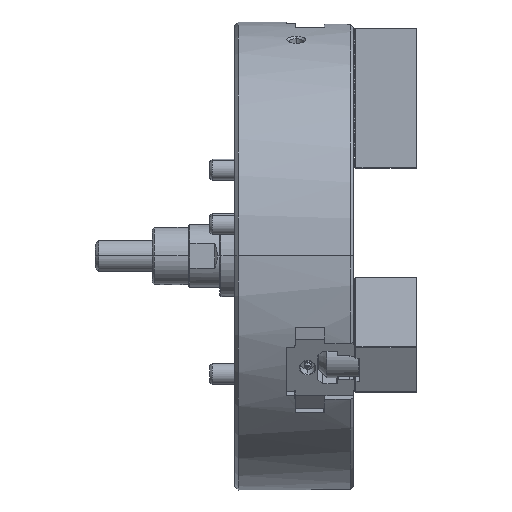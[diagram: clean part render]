
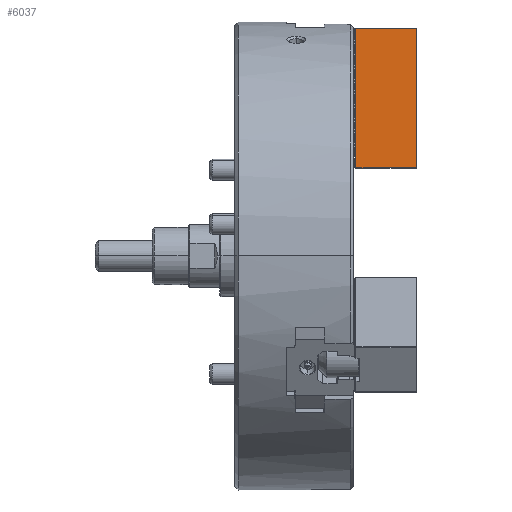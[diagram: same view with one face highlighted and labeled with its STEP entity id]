
A CAD part, top view. The second image highlights one B-rep face of the part: STEP entity #6037.
In plain terms, the highlighted planar face has unit normal (0, 0, 1).
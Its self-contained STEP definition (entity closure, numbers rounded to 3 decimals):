
#1260 = VECTOR ( 'NONE', #74494, 1000. ) ;
#5832 = LINE ( 'NONE', #79320, #175731 ) ;
#6037 = ADVANCED_FACE ( 'NONE', ( #102546 ), #40372, .F. ) ;
#6630 = CARTESIAN_POINT ( 'NONE',  ( 60., 0.6, 25. ) ) ;
#8733 = DIRECTION ( 'NONE',  ( 0., 0., -1. ) ) ;
#10086 = VERTEX_POINT ( 'NONE', #114327 ) ;
#15267 = VECTOR ( 'NONE', #53599, 1000. ) ;
#24796 = CARTESIAN_POINT ( 'NONE',  ( 59.4, 134.4, 25. ) ) ;
#38198 = DIRECTION ( 'NONE',  ( 0., 1., 0. ) ) ;
#40372 = PLANE ( 'NONE',  #120487 ) ;
#43888 = LINE ( 'NONE', #24796, #1260 ) ;
#53599 = DIRECTION ( 'NONE',  ( -1., 0., 0. ) ) ;
#55783 = EDGE_CURVE ( 'NONE', #166195, #119196, #146385, .T. ) ;
#65687 = CARTESIAN_POINT ( 'NONE',  ( 1.4, 134.4, 25. ) ) ;
#74494 = DIRECTION ( 'NONE',  ( 0., 1., 0. ) ) ;
#79320 = CARTESIAN_POINT ( 'NONE',  ( 60., 134.4, 25. ) ) ;
#85029 = CARTESIAN_POINT ( 'NONE',  ( 59.4, 0.6, 25. ) ) ;
#99370 = CARTESIAN_POINT ( 'NONE',  ( 1.4, 0., 25. ) ) ;
#102546 = FACE_OUTER_BOUND ( 'NONE', #106917, .T. ) ;
#103336 = CARTESIAN_POINT ( 'NONE',  ( 1.4, 0.6, 25. ) ) ;
#104421 = ORIENTED_EDGE ( 'NONE', *, *, #55783, .F. ) ;
#106917 = EDGE_LOOP ( 'NONE', ( #104421, #200693, #143689, #149603 ) ) ;
#107672 = VECTOR ( 'NONE', #38198, 1000. ) ;
#107729 = EDGE_CURVE ( 'NONE', #10086, #196771, #5832, .T. ) ;
#111656 = EDGE_CURVE ( 'NONE', #119196, #196771, #162633, .T. ) ;
#114327 = CARTESIAN_POINT ( 'NONE',  ( 59.4, 134.4, 25. ) ) ;
#118871 = DIRECTION ( 'NONE',  ( 0., 1., 0. ) ) ;
#119196 = VERTEX_POINT ( 'NONE', #103336 ) ;
#120487 = AXIS2_PLACEMENT_3D ( 'NONE', #148486, #8733, #118871 ) ;
#141531 = DIRECTION ( 'NONE',  ( -1., 0., 0. ) ) ;
#143689 = ORIENTED_EDGE ( 'NONE', *, *, #107729, .T. ) ;
#146385 = LINE ( 'NONE', #6630, #15267 ) ;
#148486 = CARTESIAN_POINT ( 'NONE',  ( 60., 0.6, 25. ) ) ;
#149603 = ORIENTED_EDGE ( 'NONE', *, *, #111656, .F. ) ;
#162633 = LINE ( 'NONE', #99370, #107672 ) ;
#162850 = EDGE_CURVE ( 'NONE', #166195, #10086, #43888, .T. ) ;
#166195 = VERTEX_POINT ( 'NONE', #85029 ) ;
#175731 = VECTOR ( 'NONE', #141531, 1000. ) ;
#196771 = VERTEX_POINT ( 'NONE', #65687 ) ;
#200693 = ORIENTED_EDGE ( 'NONE', *, *, #162850, .T. ) ;
